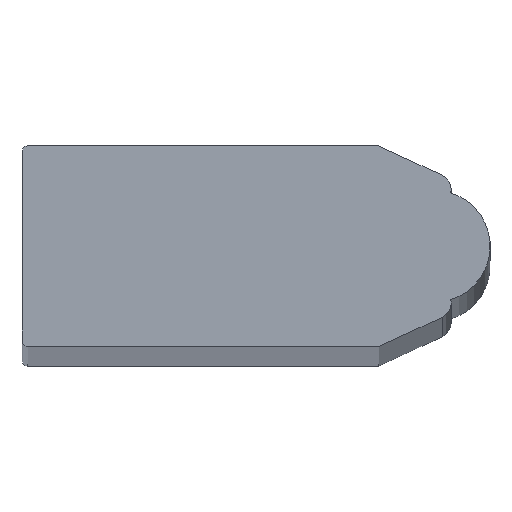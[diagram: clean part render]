
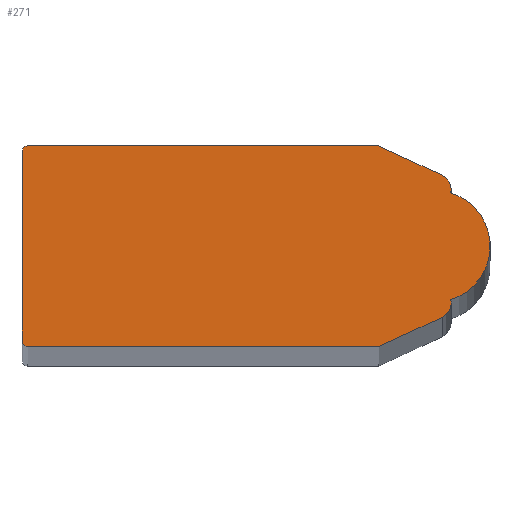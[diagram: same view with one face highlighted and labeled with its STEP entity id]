
A CAD part, top view. The second image highlights one B-rep face of the part: STEP entity #271.
In plain terms, the highlighted planar face has unit normal (0, 0, 1).
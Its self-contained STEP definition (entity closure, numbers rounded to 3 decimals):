
#1 = CARTESIAN_POINT ( 'NONE',  ( 32., -9., 1000. ) ) ;
#2 = CARTESIAN_POINT ( 'NONE',  ( 0., 0., 1000. ) ) ;
#11 = DIRECTION ( 'NONE',  ( 0., 0., 1. ) ) ;
#21 = VERTEX_POINT ( 'NONE', #374 ) ;
#28 = ORIENTED_EDGE ( 'NONE', *, *, #165, .T. ) ;
#32 = LINE ( 'NONE', #2, #383 ) ;
#33 = LINE ( 'NONE', #115, #251 ) ;
#34 = VERTEX_POINT ( 'NONE', #214 ) ;
#36 = CARTESIAN_POINT ( 'NONE',  ( 37.1, -5.1, 1000. ) ) ;
#41 = EDGE_CURVE ( 'NONE', #113, #34, #32, .T. ) ;
#48 = EDGE_CURVE ( 'NONE', #190, #98, #179, .T. ) ;
#50 = ORIENTED_EDGE ( 'NONE', *, *, #121, .T. ) ;
#51 = DIRECTION ( 'NONE',  ( 0., 0., 1. ) ) ;
#52 = CIRCLE ( 'NONE', #284, 0.5 ) ;
#57 = ORIENTED_EDGE ( 'NONE', *, *, #264, .T. ) ;
#70 = PLANE ( 'NONE',  #174 ) ;
#86 = CARTESIAN_POINT ( 'NONE',  ( 0.5, 8.5, 1000. ) ) ;
#87 = CARTESIAN_POINT ( 'NONE',  ( 37., 0., 1000. ) ) ;
#96 = DIRECTION ( 'NONE',  ( 0.908, 0.42, 0. ) ) ;
#98 = VERTEX_POINT ( 'NONE', #336 ) ;
#103 = VERTEX_POINT ( 'NONE', #1 ) ;
#104 = VERTEX_POINT ( 'NONE', #277 ) ;
#109 = CARTESIAN_POINT ( 'NONE',  ( 37.687, 6.371, 1000. ) ) ;
#112 = CARTESIAN_POINT ( 'NONE',  ( 0.5, 9., 1000. ) ) ;
#113 = VERTEX_POINT ( 'NONE', #463 ) ;
#115 = CARTESIAN_POINT ( 'NONE',  ( 0., -9., 1000. ) ) ;
#121 = EDGE_CURVE ( 'NONE', #98, #279, #339, .T. ) ;
#122 = EDGE_CURVE ( 'NONE', #412, #190, #458, .T. ) ;
#126 = DIRECTION ( 'NONE',  ( 1., 0., 0. ) ) ;
#129 = CARTESIAN_POINT ( 'NONE',  ( 38., -5.1, 1000. ) ) ;
#131 = AXIS2_PLACEMENT_3D ( 'NONE', #87, #231, #199 ) ;
#135 = EDGE_CURVE ( 'NONE', #347, #412, #52, .T. ) ;
#149 = DIRECTION ( 'NONE',  ( 0., 0., 1. ) ) ;
#153 = AXIS2_PLACEMENT_3D ( 'NONE', #86, #51, #358 ) ;
#165 = EDGE_CURVE ( 'NONE', #103, #104, #348, .T. ) ;
#166 = LINE ( 'NONE', #466, #390 ) ;
#174 = AXIS2_PLACEMENT_3D ( 'NONE', #303, #452, #455 ) ;
#177 = CARTESIAN_POINT ( 'NONE',  ( 38., 5.1, 1000. ) ) ;
#179 = CIRCLE ( 'NONE', #350, 0.5 ) ;
#190 = VERTEX_POINT ( 'NONE', #239 ) ;
#194 = ORIENTED_EDGE ( 'NONE', *, *, #48, .T. ) ;
#196 = AXIS2_PLACEMENT_3D ( 'NONE', #263, #149, #217 ) ;
#199 = DIRECTION ( 'NONE',  ( 1., 0., 0. ) ) ;
#202 = CARTESIAN_POINT ( 'NONE',  ( 0.5, -9., 1000. ) ) ;
#205 = LINE ( 'NONE', #236, #401 ) ;
#214 = CARTESIAN_POINT ( 'NONE',  ( 0., -8.5, 1000. ) ) ;
#217 = DIRECTION ( 'NONE',  ( 1., 0., 0. ) ) ;
#231 = DIRECTION ( 'NONE',  ( 0., 0., 1. ) ) ;
#233 = CARTESIAN_POINT ( 'NONE',  ( 37.1, 5.1, 1000. ) ) ;
#235 = DIRECTION ( 'NONE',  ( 1., 0., 0. ) ) ;
#236 = CARTESIAN_POINT ( 'NONE',  ( 0., 9., 1000. ) ) ;
#238 = VERTEX_POINT ( 'NONE', #112 ) ;
#239 = CARTESIAN_POINT ( 'NONE',  ( 38.4, 4.8, 1000. ) ) ;
#247 = EDGE_CURVE ( 'NONE', #104, #347, #378, .T. ) ;
#251 = VECTOR ( 'NONE', #419, 1000. ) ;
#257 = DIRECTION ( 'NONE',  ( 1., 0., 0. ) ) ;
#259 = ORIENTED_EDGE ( 'NONE', *, *, #431, .F. ) ;
#263 = CARTESIAN_POINT ( 'NONE',  ( 0.5, -8.5, 1000. ) ) ;
#264 = EDGE_CURVE ( 'NONE', #34, #406, #324, .T. ) ;
#271 = ADVANCED_FACE ( 'NONE', ( #411 ), #70, .T. ) ;
#272 = CARTESIAN_POINT ( 'NONE',  ( 38.4, -4.8, 1000. ) ) ;
#274 = DIRECTION ( 'NONE',  ( 0., 0., 1. ) ) ;
#277 = CARTESIAN_POINT ( 'NONE',  ( 37.687, -6.371, 1000. ) ) ;
#279 = VERTEX_POINT ( 'NONE', #109 ) ;
#281 = ORIENTED_EDGE ( 'NONE', *, *, #443, .T. ) ;
#284 = AXIS2_PLACEMENT_3D ( 'NONE', #129, #274, #235 ) ;
#289 = EDGE_CURVE ( 'NONE', #406, #103, #33, .T. ) ;
#303 = CARTESIAN_POINT ( 'NONE',  ( 0., 0., 1000. ) ) ;
#315 = DIRECTION ( 'NONE',  ( 0., 0., 1. ) ) ;
#318 = ORIENTED_EDGE ( 'NONE', *, *, #450, .T. ) ;
#324 = CIRCLE ( 'NONE', #196, 0.5 ) ;
#333 = DIRECTION ( 'NONE',  ( 0., 0., 1. ) ) ;
#335 = ORIENTED_EDGE ( 'NONE', *, *, #122, .T. ) ;
#336 = CARTESIAN_POINT ( 'NONE',  ( 38.5, 5.1, 1000. ) ) ;
#337 = DIRECTION ( 'NONE',  ( 0., -1., 0. ) ) ;
#339 = CIRCLE ( 'NONE', #400, 1.4 ) ;
#347 = VERTEX_POINT ( 'NONE', #391 ) ;
#348 = LINE ( 'NONE', #471, #468 ) ;
#350 = AXIS2_PLACEMENT_3D ( 'NONE', #177, #333, #448 ) ;
#358 = DIRECTION ( 'NONE',  ( 1., 0., 0. ) ) ;
#360 = ORIENTED_EDGE ( 'NONE', *, *, #289, .T. ) ;
#374 = CARTESIAN_POINT ( 'NONE',  ( 32., 9., 1000. ) ) ;
#378 = CIRCLE ( 'NONE', #441, 1.4 ) ;
#383 = VECTOR ( 'NONE', #337, 1000. ) ;
#390 = VECTOR ( 'NONE', #430, 1000. ) ;
#391 = CARTESIAN_POINT ( 'NONE',  ( 38.5, -5.1, 1000. ) ) ;
#394 = DIRECTION ( 'NONE',  ( -1., 0., 0. ) ) ;
#400 = AXIS2_PLACEMENT_3D ( 'NONE', #233, #315, #126 ) ;
#401 = VECTOR ( 'NONE', #394, 1000. ) ;
#403 = ORIENTED_EDGE ( 'NONE', *, *, #135, .T. ) ;
#406 = VERTEX_POINT ( 'NONE', #202 ) ;
#411 = FACE_OUTER_BOUND ( 'NONE', #473, .T. ) ;
#412 = VERTEX_POINT ( 'NONE', #272 ) ;
#419 = DIRECTION ( 'NONE',  ( 1., 0., 0. ) ) ;
#430 = DIRECTION ( 'NONE',  ( 0.908, -0.42, 0. ) ) ;
#431 = EDGE_CURVE ( 'NONE', #21, #279, #166, .T. ) ;
#434 = ORIENTED_EDGE ( 'NONE', *, *, #247, .T. ) ;
#441 = AXIS2_PLACEMENT_3D ( 'NONE', #36, #11, #257 ) ;
#443 = EDGE_CURVE ( 'NONE', #21, #238, #205, .T. ) ;
#448 = DIRECTION ( 'NONE',  ( 1., 0., 0. ) ) ;
#450 = EDGE_CURVE ( 'NONE', #238, #113, #454, .T. ) ;
#452 = DIRECTION ( 'NONE',  ( 0., 0., 1. ) ) ;
#454 = CIRCLE ( 'NONE', #153, 0.5 ) ;
#455 = DIRECTION ( 'NONE',  ( 1., 0., 0. ) ) ;
#458 = CIRCLE ( 'NONE', #131, 5. ) ;
#463 = CARTESIAN_POINT ( 'NONE',  ( 0., 8.5, 1000. ) ) ;
#466 = CARTESIAN_POINT ( 'NONE',  ( 9.062, 19.604, 1000. ) ) ;
#468 = VECTOR ( 'NONE', #96, 1000. ) ;
#469 = ORIENTED_EDGE ( 'NONE', *, *, #41, .T. ) ;
#471 = CARTESIAN_POINT ( 'NONE',  ( 9.062, -19.604, 1000. ) ) ;
#473 = EDGE_LOOP ( 'NONE', ( #403, #335, #194, #50, #259, #281, #318, #469, #57, #360, #28, #434 ) ) ;
